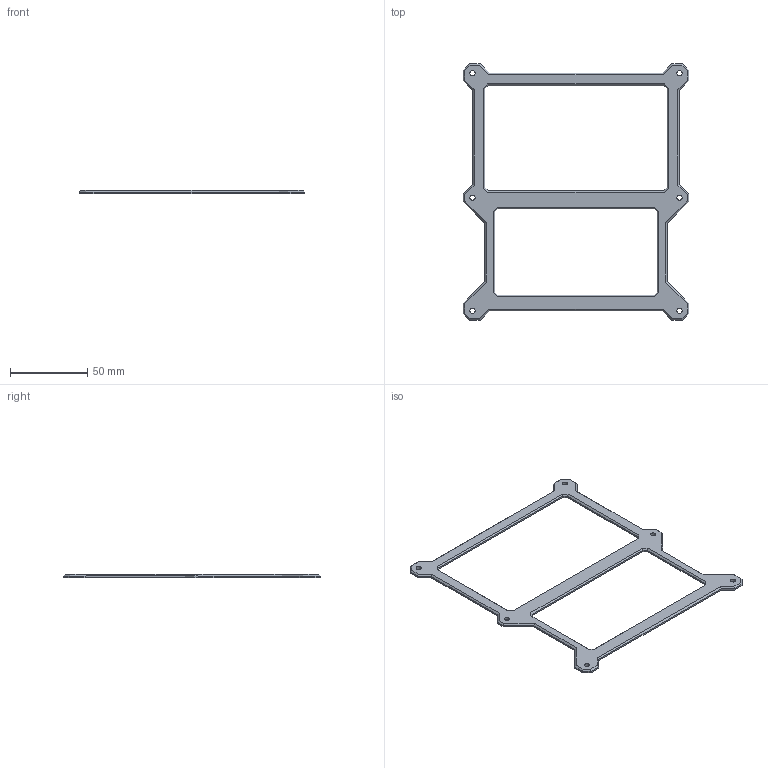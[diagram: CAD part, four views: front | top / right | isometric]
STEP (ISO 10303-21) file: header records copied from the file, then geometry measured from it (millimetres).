
FILE_DESCRIPTION(/* description */ ('Unknown'),/* implementation_level */ '2;1');
FILE_NAME(/* name */ 'cyberdeck_front',/* time_stamp */ '2026-04-21T20:03:19+02:00',/* author */ ('Unknown'),/* organization */ ('Unknown'),/* preprocessor_version */ 'ST-DEVELOPER v16.7',/* originating_system */ 'DEX',/* authorisation */ $);
FILE_SCHEMA (('AUTOMOTIVE_DESIGN {1 0 10303 214 3 1 1}'));
Length unit declared in the file: millimetre
Products named in the file (1): cyberdeck_front
Bounding box: 145.6 x 165.4 x 2 mm (x, y, z)
Volume: 12297.7 mm3; surface area: 14987.6 mm2
Topology: 1 solids, 1 shells, 104 faces, 264 edges, 162 vertices
Faces by surface type: plane 98, cylinder 6
Full cylindrical faces by diameter (mm): 3.3 x6
Entity records: 3002 total; most frequent: CARTESIAN_POINT 513, ORIENTED_EDGE 504, DIRECTION 474, EDGE_CURVE 252, LINE 240, VECTOR 240, VERTEX_POINT 156, EDGE_LOOP 126
